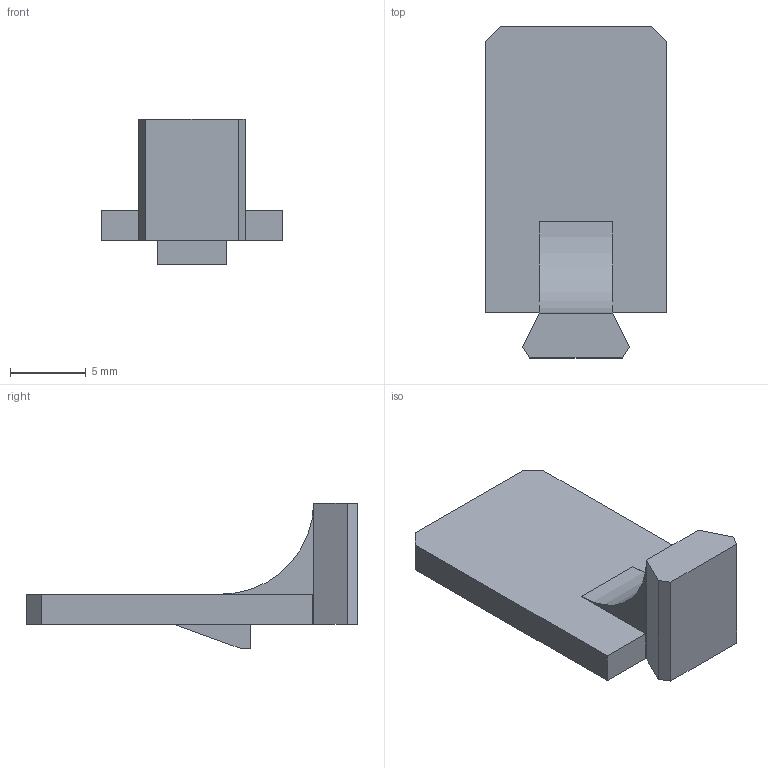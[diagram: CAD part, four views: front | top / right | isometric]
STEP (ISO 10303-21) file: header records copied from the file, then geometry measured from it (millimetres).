
FILE_DESCRIPTION(/* description */ (''),/* implementation_level */ '2;1');
FILE_NAME(/* name */ 'Clip.step',/* time_stamp */ '2025-11-18T18:52:32-05:00',/* author */ (''),/* organization */ (''),/* preprocessor_version */ 'ST-DEVELOPER v20.1',/* originating_system */ 'Autodesk Translation Framework v14.21.0.0',/* authorisation */ '');
FILE_SCHEMA (('AUTOMOTIVE_DESIGN { 1 0 10303 214 3 1 1 }'));
Length unit declared in the file: millimetre
Products named in the file (1): Rav4 Trunk Panel
Bounding box: 12 x 21.92 x 9.6 mm (x, y, z)
Volume: 654.1 mm3; surface area: 752.3 mm2
Topology: 1 solids, 1 shells, 25 faces, 63 edges, 41 vertices
Faces by surface type: plane 24, cylinder 1
Entity records: 768 total; most frequent: CARTESIAN_POINT 130, ORIENTED_EDGE 126, DIRECTION 117, EDGE_CURVE 63, LINE 61, VECTOR 61, VERTEX_POINT 41, AXIS2_PLACEMENT_3D 28
